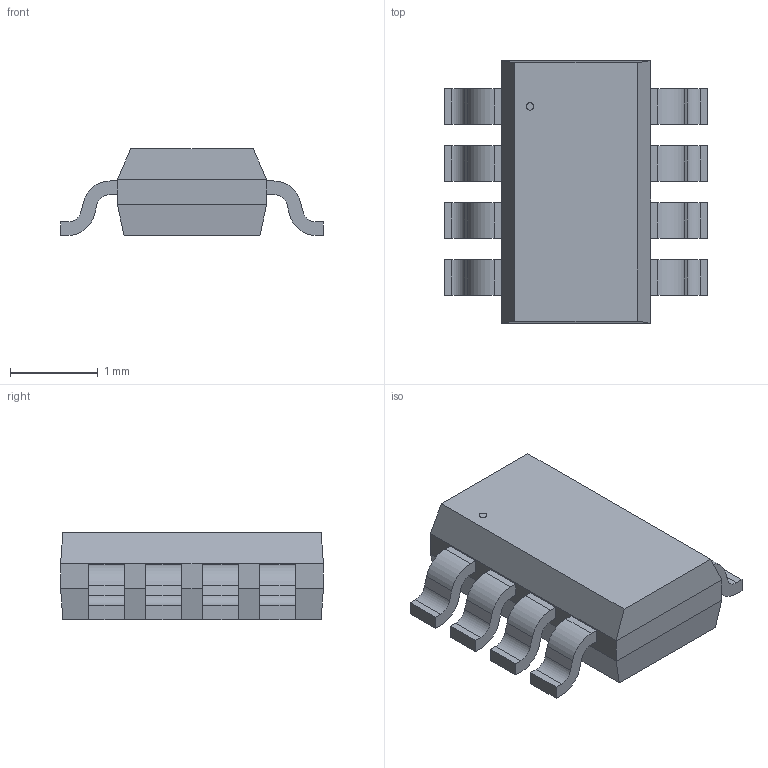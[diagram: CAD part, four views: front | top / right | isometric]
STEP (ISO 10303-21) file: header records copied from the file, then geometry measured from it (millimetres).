
FILE_DESCRIPTION(('STEP AP214'),'1');
FILE_NAME('TSOT23-8_MP2233_MNP','2025-03-27T11:38:30',(''),(''),'','','');
FILE_SCHEMA(('AUTOMOTIVE_DESIGN'));
Length unit declared in the file: millimetre
Products named in the file (1): product
Bounding box: 3 x 3 x 0.99 mm (x, y, z)
Volume: 5.2 mm3; surface area: 27.2 mm2
Topology: 10 solids, 10 shells, 129 faces, 319 edges, 210 vertices
Faces by surface type: plane 96, cylinder 33
Full cylindrical faces by diameter (mm): 0.085 x1
Entity records: 3789 total; most frequent: DIRECTION 646, ORIENTED_EDGE 636, CARTESIAN_POINT 375, EDGE_CURVE 318, LINE 252, VECTOR 252, VERTEX_POINT 210, AXIS2_PLACEMENT_3D 197
